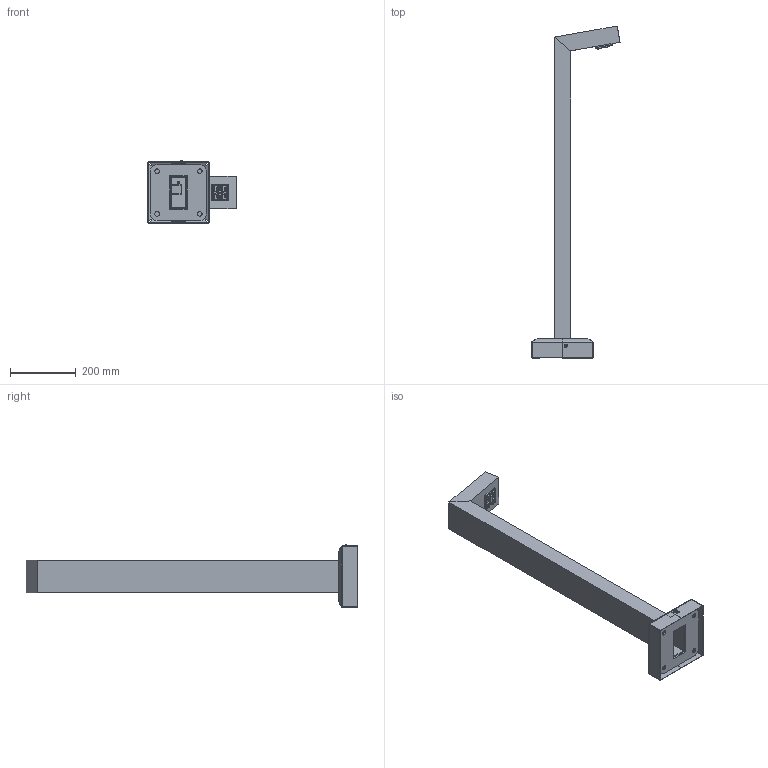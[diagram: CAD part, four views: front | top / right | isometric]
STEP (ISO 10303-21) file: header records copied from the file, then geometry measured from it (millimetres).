
FILE_DESCRIPTION (( 'STEP AP214' ), '1' );
FILE_NAME ('HEXA-1-1(10)-(Ê170-130-4õ14).STEP', '2021-07-07T14:09:00', ( '' ), ( '' ), 'SwSTEP 2.0', 'SolidWorks 2020', '' );
FILE_SCHEMA (( 'AUTOMOTIVE_DESIGN' ));
Length unit declared in the file: millimetre
Products named in the file (18): ﾑ鸙 HEXA -1(10); Ñàìîðåç íåðæàâåþùèé 2,9õ16 DIN 7981 H A2 ñ ïîëóêðóãëîé ãîëîâêîé; PL186.01-06; BS-170(Ê100õ50)  Ïîëóêðûøêà; BS-170(Ê100õ50)  Ïëàòèê; ﾊ煇鳫 HEXA-1(10); ч蜱齁罻 HEXA; Êàáåëü ÊÏÑÂÂíã(À)-LS 1õ2õ0,5 êâ.ìì êðàñí.; BS-170(Ê100õ50) Ïîëóêðûøêà; Êëåììà WAGO 221-412 2 êîíòàêòíàÿ (ðàçúåìíîå ñîåä.); ﾄ鰾褞  LPHC-18-700; Assy_SITARA-2X2-T2 Mechmodel 20171120; HEXA-1-1(10)-(Ê170-130-4õ14); socket button head screw_iso1_ISO 7380 - M6 x 16 - 16N; Ôëàíåö 170õ170õ6(102õ52) ì.ö.130, 4õ14; BS-170(Ê100õ50)  Äåêîðàòèâíûé öîêîëü 170(Ê120); ﾑ鸙 HEXA-1(10) 
Assembly tree (25 placements, depth 4):
  HEXA-1-1(10)-(Ê170-130-4õ14)
    ﾑ鸙 HEXA -1(10)
      ﾊ煇鳫 HEXA-1(10)
      ﾑ鸙 HEXA-1(10) 
      Ôëàíåö 170õ170õ6(102õ52) ì.ö.130, 4õ14
      ч蜱齁罻 HEXA
    Assy_SITARA-2X2-T2 Mechmodel 20171120
    PL186.01-06
    Ñàìîðåç íåðæàâåþùèé 2,9õ16 DIN 7981 H A2 ñ ïîëóêðóãëîé ãîëîâêîé  x6
    ﾄ鰾褞  LPHC-18-700
    Êëåììà WAGO 221-412 2 êîíòàêòíàÿ (ðàçúåìíîå ñîåä.)  x2
    Êàáåëü ÊÏÑÂÂíã(À)-LS 1õ2õ0,5 êâ.ìì êðàñí.
    BS-170(Ê100õ50)  Äåêîðàòèâíûé öîêîëü 170(Ê120)
      BS-170(Ê100õ50)  Ïîëóêðûøêà
        BS-170(Ê100õ50) Ïîëóêðûøêà
        BS-170(Ê100õ50)  Ïëàòèê
      socket button head screw_iso1_ISO 7380 - M6 x 16 - 16N
      BS-170(Ê100õ50)  Ïîëóêðûøêà
        BS-170(Ê100õ50) Ïîëóêðûøêà
        BS-170(Ê100õ50)  Ïëàòèê
Bounding box: 268.34 x 1010.62 x 189.3 mm (x, y, z)
Volume: 1635857.6 mm3; surface area: 877062.8 mm2
Topology: 26 solids, 26 shells, 1236 faces, 3025 edges, 1869 vertices
Faces by surface type: plane 590, cylinder 332, cone 152, torus 90, bspline 44, sphere 28
Entity records: 32366 total; most frequent: CARTESIAN_POINT 9338, ORIENTED_EDGE 4680, DIRECTION 4381, EDGE_CURVE 2340, AXIS2_PLACEMENT_3D 1625, VERTEX_POINT 1440, LINE 1131, VECTOR 1131
